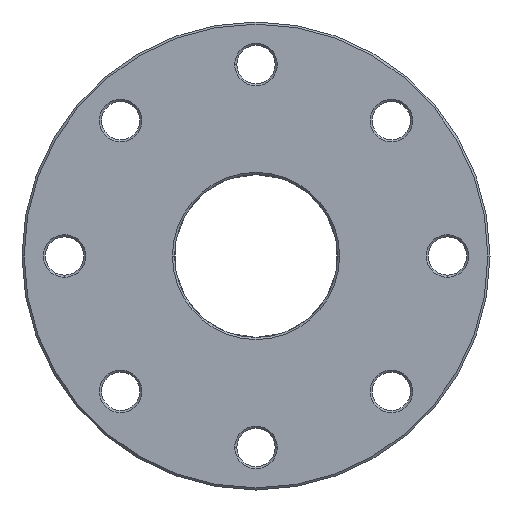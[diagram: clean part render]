
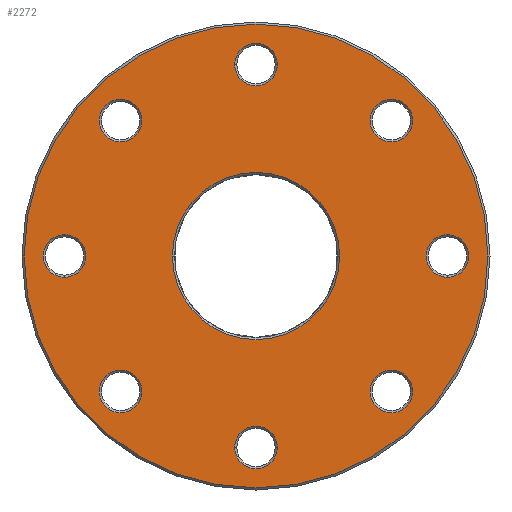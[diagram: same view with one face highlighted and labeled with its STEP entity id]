
A CAD part, front view. The second image highlights one B-rep face of the part: STEP entity #2272.
In plain terms, the highlighted planar face has unit normal (0, -1, 0).
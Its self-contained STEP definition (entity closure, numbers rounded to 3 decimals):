
#646=CARTESIAN_POINT('',(-63.64,-1.282,63.64));
#647=DIRECTION('',(0.,1.,0.));
#648=DIRECTION('',(-0.707,0.,-0.707));
#649=AXIS2_PLACEMENT_3D('',#646,#647,#648);
#654=CARTESIAN_POINT('',(-63.64,-1.282,63.64));
#655=DIRECTION('',(0.,1.,0.));
#656=DIRECTION('',(0.707,0.,0.707));
#657=AXIS2_PLACEMENT_3D('',#654,#655,#656);
#662=CARTESIAN_POINT('',(0.,-1.282,90.));
#663=DIRECTION('',(0.,1.,0.));
#664=DIRECTION('',(-1.,0.,0.));
#665=AXIS2_PLACEMENT_3D('',#662,#663,#664);
#670=CARTESIAN_POINT('',(0.,-1.282,90.));
#671=DIRECTION('',(0.,1.,0.));
#672=DIRECTION('',(1.,0.,0.));
#673=AXIS2_PLACEMENT_3D('',#670,#671,#672);
#678=CARTESIAN_POINT('',(63.64,-1.282,63.64));
#679=DIRECTION('',(0.,1.,0.));
#680=DIRECTION('',(-0.707,0.,0.707));
#681=AXIS2_PLACEMENT_3D('',#678,#679,#680);
#686=CARTESIAN_POINT('',(63.64,-1.282,63.64));
#687=DIRECTION('',(0.,1.,0.));
#688=DIRECTION('',(0.707,0.,-0.707));
#689=AXIS2_PLACEMENT_3D('',#686,#687,#688);
#694=CARTESIAN_POINT('',(90.,-1.282,0.));
#695=DIRECTION('',(0.,1.,0.));
#696=DIRECTION('',(0.,0.,1.));
#697=AXIS2_PLACEMENT_3D('',#694,#695,#696);
#702=CARTESIAN_POINT('',(90.,-1.282,0.));
#703=DIRECTION('',(0.,1.,0.));
#704=DIRECTION('',(0.,0.,-1.));
#705=AXIS2_PLACEMENT_3D('',#702,#703,#704);
#710=CARTESIAN_POINT('',(63.64,-1.282,-63.64));
#711=DIRECTION('',(0.,1.,0.));
#712=DIRECTION('',(0.707,0.,0.707));
#713=AXIS2_PLACEMENT_3D('',#710,#711,#712);
#718=CARTESIAN_POINT('',(63.64,-1.282,-63.64));
#719=DIRECTION('',(0.,1.,0.));
#720=DIRECTION('',(-0.707,0.,-0.707));
#721=AXIS2_PLACEMENT_3D('',#718,#719,#720);
#726=CARTESIAN_POINT('',(0.,-1.282,-90.));
#727=DIRECTION('',(0.,1.,0.));
#728=DIRECTION('',(1.,0.,0.));
#729=AXIS2_PLACEMENT_3D('',#726,#727,#728);
#734=CARTESIAN_POINT('',(0.,-1.282,-90.));
#735=DIRECTION('',(0.,1.,0.));
#736=DIRECTION('',(-1.,0.,0.));
#737=AXIS2_PLACEMENT_3D('',#734,#735,#736);
#742=CARTESIAN_POINT('',(-63.64,-1.282,-63.64));
#743=DIRECTION('',(0.,1.,0.));
#744=DIRECTION('',(-0.707,0.,0.707));
#745=AXIS2_PLACEMENT_3D('',#742,#743,#744);
#750=CARTESIAN_POINT('',(-63.64,-1.282,-63.64));
#751=DIRECTION('',(0.,1.,0.));
#752=DIRECTION('',(0.707,0.,-0.707));
#753=AXIS2_PLACEMENT_3D('',#750,#751,#752);
#758=CARTESIAN_POINT('',(-90.,-1.282,0.));
#759=DIRECTION('',(0.,1.,0.));
#760=DIRECTION('',(0.,0.,1.));
#761=AXIS2_PLACEMENT_3D('',#758,#759,#760);
#766=CARTESIAN_POINT('',(-90.,-1.282,0.));
#767=DIRECTION('',(0.,1.,0.));
#768=DIRECTION('',(0.,0.,-1.));
#769=AXIS2_PLACEMENT_3D('',#766,#767,#768);
#774=CARTESIAN_POINT('',(0.,-1.282,0.));
#775=DIRECTION('',(0.,1.,0.));
#776=DIRECTION('',(1.,0.,0.));
#777=AXIS2_PLACEMENT_3D('',#774,#775,#776);
#782=CARTESIAN_POINT('',(0.,-1.282,0.));
#783=DIRECTION('',(0.,1.,0.));
#784=DIRECTION('',(-1.,0.,0.));
#785=AXIS2_PLACEMENT_3D('',#782,#783,#784);
#790=CARTESIAN_POINT('',(0.,-1.282,0.));
#791=DIRECTION('',(0.,-1.,0.));
#792=DIRECTION('',(1.,0.,0.));
#793=AXIS2_PLACEMENT_3D('',#790,#791,#792);
#798=CARTESIAN_POINT('',(0.,-1.282,0.));
#799=DIRECTION('',(0.,-1.,0.));
#800=DIRECTION('',(-1.,0.,0.));
#801=AXIS2_PLACEMENT_3D('',#798,#799,#800);
#1593=CARTESIAN_POINT('',(-70.711,-1.282,56.569));
#1594=CARTESIAN_POINT('',(-56.569,-1.282,70.711));
#1595=VERTEX_POINT('',#1593);
#1596=VERTEX_POINT('',#1594);
#1601=CARTESIAN_POINT('',(-10.,-1.282,90.));
#1602=CARTESIAN_POINT('',(10.,-1.282,90.));
#1603=VERTEX_POINT('',#1601);
#1604=VERTEX_POINT('',#1602);
#1609=CARTESIAN_POINT('',(56.569,-1.282,70.711));
#1610=CARTESIAN_POINT('',(70.711,-1.282,56.569));
#1611=VERTEX_POINT('',#1609);
#1612=VERTEX_POINT('',#1610);
#1617=CARTESIAN_POINT('',(90.,-1.282,10.));
#1618=CARTESIAN_POINT('',(90.,-1.282,-10.));
#1619=VERTEX_POINT('',#1617);
#1620=VERTEX_POINT('',#1618);
#1625=CARTESIAN_POINT('',(70.711,-1.282,-56.569));
#1626=CARTESIAN_POINT('',(56.569,-1.282,-70.711));
#1627=VERTEX_POINT('',#1625);
#1628=VERTEX_POINT('',#1626);
#1633=CARTESIAN_POINT('',(10.,-1.282,-90.));
#1634=CARTESIAN_POINT('',(-10.,-1.282,-90.));
#1635=VERTEX_POINT('',#1633);
#1636=VERTEX_POINT('',#1634);
#1641=CARTESIAN_POINT('',(-70.711,-1.282,-56.569));
#1642=CARTESIAN_POINT('',(-56.569,-1.282,-70.711));
#1643=VERTEX_POINT('',#1641);
#1644=VERTEX_POINT('',#1642);
#1649=CARTESIAN_POINT('',(-90.,-1.282,10.));
#1650=CARTESIAN_POINT('',(-90.,-1.282,-10.));
#1651=VERTEX_POINT('',#1649);
#1652=VERTEX_POINT('',#1650);
#1657=CARTESIAN_POINT('',(39.281,-1.282,0.));
#1658=CARTESIAN_POINT('',(-39.281,-1.282,0.));
#1659=VERTEX_POINT('',#1657);
#1660=VERTEX_POINT('',#1658);
#1665=CARTESIAN_POINT('',(109.,-1.282,0.));
#1666=CARTESIAN_POINT('',(-109.,-1.282,0.));
#1667=VERTEX_POINT('',#1665);
#1668=VERTEX_POINT('',#1666);
#2208=CARTESIAN_POINT('',(0.,-1.282,0.));
#2209=DIRECTION('',(0.,-1.,0.));
#2210=DIRECTION('',(1.,0.,0.));
#2211=AXIS2_PLACEMENT_3D('',#2208,#2209,#2210);
#2212=PLANE('',#2211);
#2214=ORIENTED_EDGE('',*,*,#2213,.F.);
#2216=ORIENTED_EDGE('',*,*,#2215,.F.);
#2217=EDGE_LOOP('',(#2214,#2216));
#2218=FACE_OUTER_BOUND('',#2217,.F.);
#2220=ORIENTED_EDGE('',*,*,#2219,.F.);
#2222=ORIENTED_EDGE('',*,*,#2221,.F.);
#2223=EDGE_LOOP('',(#2220,#2222));
#2224=FACE_BOUND('',#2223,.F.);
#2226=ORIENTED_EDGE('',*,*,#2225,.F.);
#2228=ORIENTED_EDGE('',*,*,#2227,.F.);
#2229=EDGE_LOOP('',(#2226,#2228));
#2230=FACE_BOUND('',#2229,.F.);
#2232=ORIENTED_EDGE('',*,*,#2231,.F.);
#2234=ORIENTED_EDGE('',*,*,#2233,.F.);
#2235=EDGE_LOOP('',(#2232,#2234));
#2236=FACE_BOUND('',#2235,.F.);
#2238=ORIENTED_EDGE('',*,*,#2237,.F.);
#2240=ORIENTED_EDGE('',*,*,#2239,.F.);
#2241=EDGE_LOOP('',(#2238,#2240));
#2242=FACE_BOUND('',#2241,.F.);
#2244=ORIENTED_EDGE('',*,*,#2243,.F.);
#2246=ORIENTED_EDGE('',*,*,#2245,.F.);
#2247=EDGE_LOOP('',(#2244,#2246));
#2248=FACE_BOUND('',#2247,.F.);
#2250=ORIENTED_EDGE('',*,*,#2249,.F.);
#2252=ORIENTED_EDGE('',*,*,#2251,.F.);
#2253=EDGE_LOOP('',(#2250,#2252));
#2254=FACE_BOUND('',#2253,.F.);
#2256=ORIENTED_EDGE('',*,*,#2255,.F.);
#2258=ORIENTED_EDGE('',*,*,#2257,.F.);
#2259=EDGE_LOOP('',(#2256,#2258));
#2260=FACE_BOUND('',#2259,.F.);
#2262=ORIENTED_EDGE('',*,*,#2261,.F.);
#2263=ORIENTED_EDGE('',*,*,#2198,.F.);
#2264=EDGE_LOOP('',(#2262,#2263));
#2265=FACE_BOUND('',#2264,.F.);
#2267=ORIENTED_EDGE('',*,*,#2266,.F.);
#2269=ORIENTED_EDGE('',*,*,#2268,.F.);
#2270=EDGE_LOOP('',(#2267,#2269));
#2271=FACE_BOUND('',#2270,.F.);
#650=CIRCLE('',#649,10.);
#658=CIRCLE('',#657,10.);
#666=CIRCLE('',#665,10.);
#674=CIRCLE('',#673,10.);
#682=CIRCLE('',#681,10.);
#690=CIRCLE('',#689,10.);
#698=CIRCLE('',#697,10.);
#706=CIRCLE('',#705,10.);
#714=CIRCLE('',#713,10.);
#722=CIRCLE('',#721,10.);
#730=CIRCLE('',#729,10.);
#738=CIRCLE('',#737,10.);
#746=CIRCLE('',#745,10.);
#754=CIRCLE('',#753,10.);
#762=CIRCLE('',#761,10.);
#770=CIRCLE('',#769,10.);
#778=CIRCLE('',#777,39.281);
#786=CIRCLE('',#785,39.281);
#794=CIRCLE('',#793,109.);
#802=CIRCLE('',#801,109.);
#2198=EDGE_CURVE('',#1660,#1659,#786,.T.);
#2213=EDGE_CURVE('',#1667,#1668,#794,.T.);
#2215=EDGE_CURVE('',#1668,#1667,#802,.T.);
#2219=EDGE_CURVE('',#1603,#1604,#666,.T.);
#2221=EDGE_CURVE('',#1604,#1603,#674,.T.);
#2225=EDGE_CURVE('',#1611,#1612,#682,.T.);
#2227=EDGE_CURVE('',#1612,#1611,#690,.T.);
#2231=EDGE_CURVE('',#1619,#1620,#698,.T.);
#2233=EDGE_CURVE('',#1620,#1619,#706,.T.);
#2237=EDGE_CURVE('',#1627,#1628,#714,.T.);
#2239=EDGE_CURVE('',#1628,#1627,#722,.T.);
#2243=EDGE_CURVE('',#1635,#1636,#730,.T.);
#2245=EDGE_CURVE('',#1636,#1635,#738,.T.);
#2249=EDGE_CURVE('',#1643,#1644,#746,.T.);
#2251=EDGE_CURVE('',#1644,#1643,#754,.T.);
#2255=EDGE_CURVE('',#1651,#1652,#762,.T.);
#2257=EDGE_CURVE('',#1652,#1651,#770,.T.);
#2261=EDGE_CURVE('',#1659,#1660,#778,.T.);
#2266=EDGE_CURVE('',#1595,#1596,#650,.T.);
#2268=EDGE_CURVE('',#1596,#1595,#658,.T.);
#2272=ADVANCED_FACE('',(#2218,#2224,#2230,#2236,#2242,#2248,#2254,#2260,#2265,
#2271),#2212,.T.);
